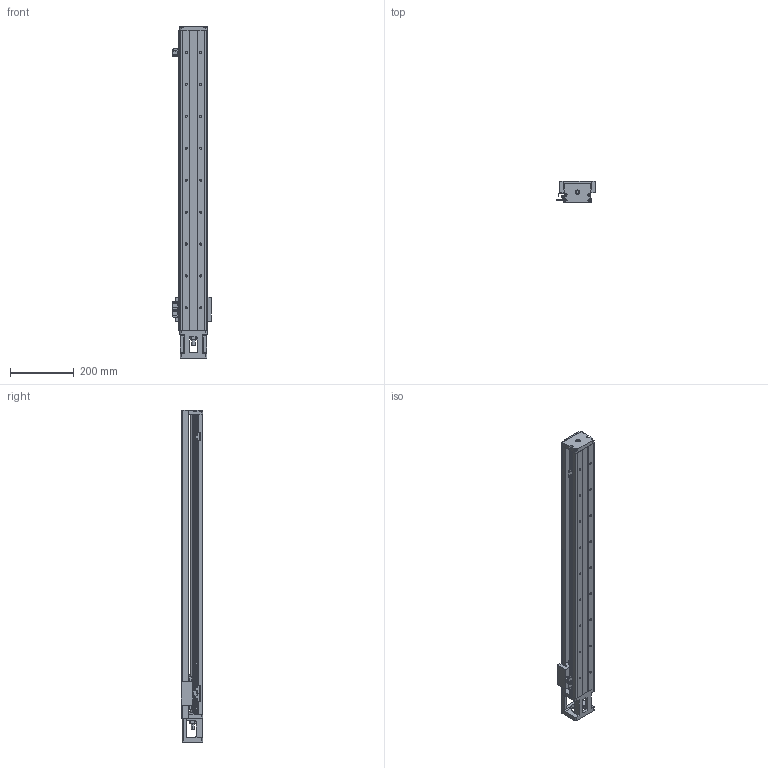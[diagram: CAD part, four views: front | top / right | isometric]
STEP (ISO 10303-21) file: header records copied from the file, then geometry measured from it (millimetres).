
FILE_DESCRIPTION (( 'STEP AP203' ), '1' );
FILE_NAME ('KH86D10C-940A1-F0CS0.STEP', '2023-12-28T09:59:54', ( '' ), ( '' ), 'SwSTEP 2.0', 'SolidWorks 2016', '' );
FILE_SCHEMA (( 'CONFIG_CONTROL_DESIGN' ));
Length unit declared in the file: millimetre
Products named in the file (35): 86賑輸; KK86-蛌諉釱; 囀鞠褒す埴芛蹟隊M4℅10; 囀鞠褒す埴芛蹟隊M3℅4; ヶ盓釱; KH86-綴釱_KK86-05-01; KK60-08-01; 囀鞠褒す埴芛蹟隊M3℅5; KH86-01-940; KH86-04-05-02; 鞠褒蹟譫M3; KH86-A1; KH86D10C-940A1-F0CS0
Assembly tree (23 placements, depth 3):
  86賑輸
  囀鞠褒す埴芛蹟隊M4℅10
  囀鞠褒す埴芛蹟隊M4℅10
  囀鞠褒す埴芛蹟隊M3℅4
  囀鞠褒す埴芛蹟隊M3℅4
Bounding box: 121 x 68 x 1040 mm (x, y, z)
Volume: 2501572.7 mm3; surface area: 692821.7 mm2
Topology: 25 solids, 26 shells, 1079 faces, 2746 edges, 1711 vertices
Faces by surface type: cylinder 413, plane 396, cone 234, bspline 36
Entity records: 29224 total; most frequent: CARTESIAN_POINT 5742, DIRECTION 4293, ORIENTED_EDGE 4158, EDGE_CURVE 2079, AXIS2_PLACEMENT_3D 1584, VERTEX_POINT 1362, VECTOR 1125, LINE 1125
